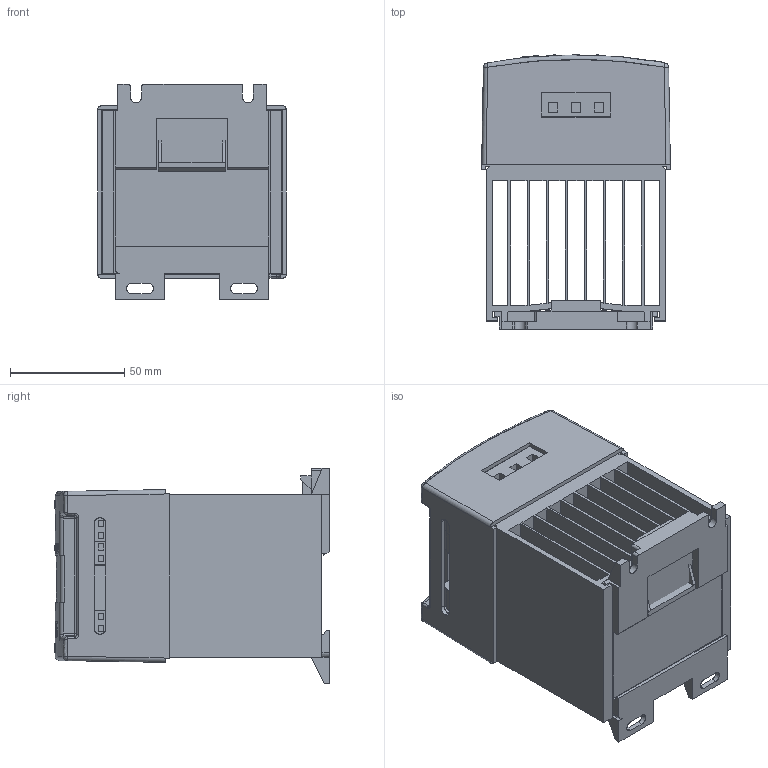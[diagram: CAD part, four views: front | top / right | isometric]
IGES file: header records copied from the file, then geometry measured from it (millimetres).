
Start section: SolidWorks IGES file using analytic representation for surfaces
Global section: file name: P:\WRKGROUP\PUBLIC\Randy\DBXX-XXXX-XXX0.IGS; native system: SolidWorks 2010; preprocessor: SolidWorks 2010; author: petkur; date: 110225.144655; units: inch
Bounding box: 82.52 x 120.02 x 93.98 mm (x, y, z)
Surface area: 173865.4 mm2 (no closed solid volume)
Topology: 0 solids, 0 shells, 1686 faces, 18246 edges, 18244 vertices
Faces by surface type: bspline 1425, revolution 261
